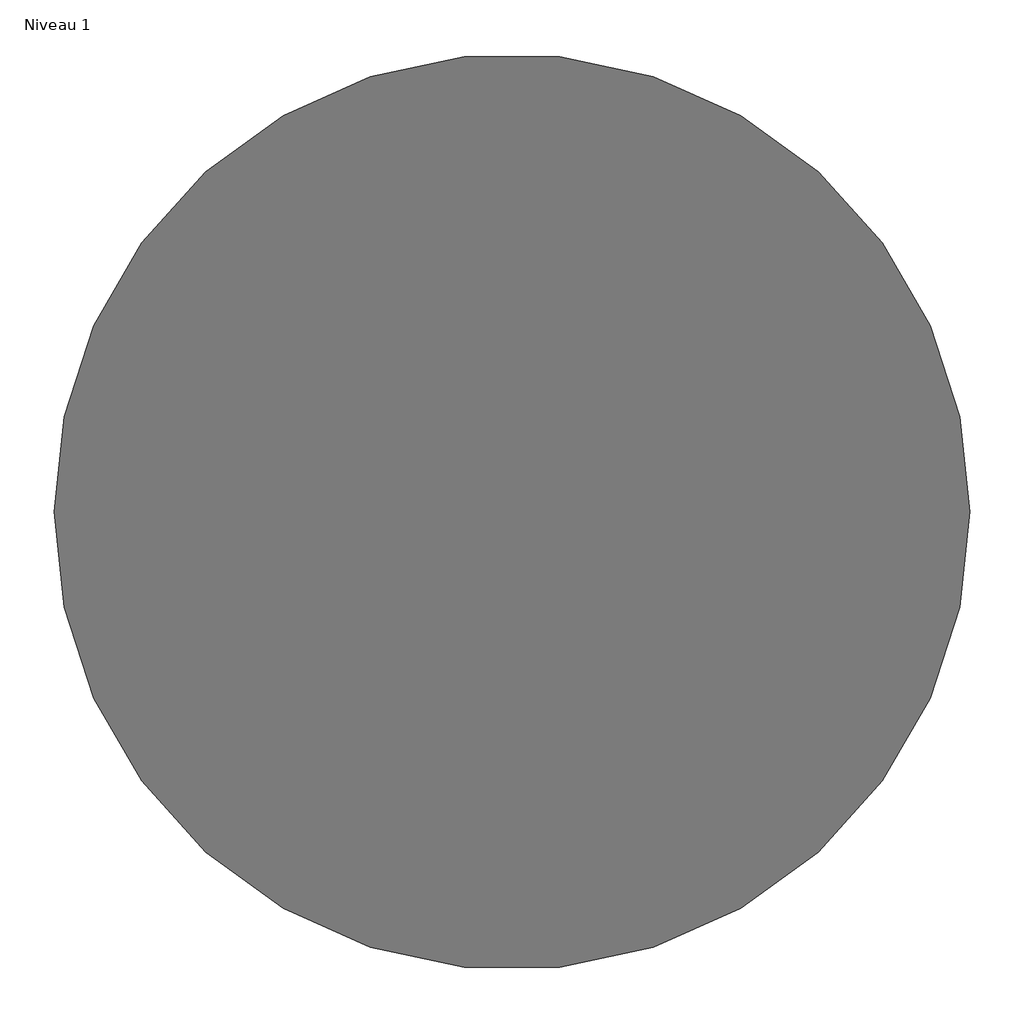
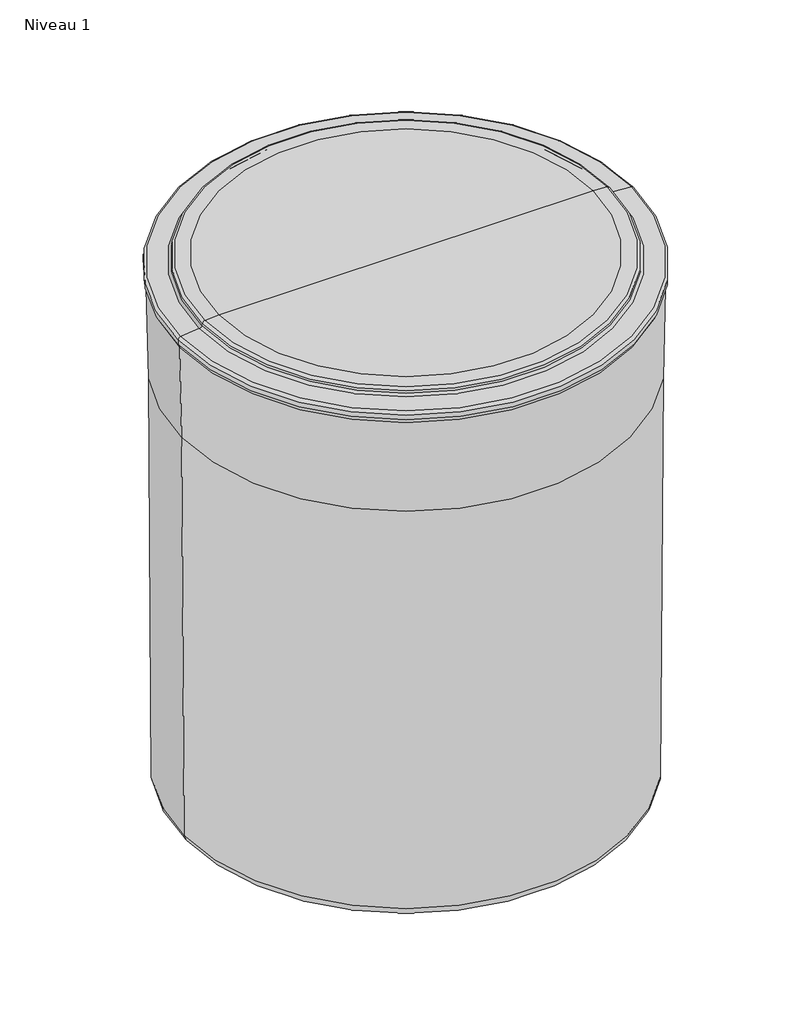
# One storey, incomplete: 1 proxy.
"""IFC4 building model written with IfcOpenShell, lengths in millimetres."""

from ifc_helpers import new_model, si_unit, origin, place, context, project, spatial, transform, mapped, element, save
from components import proxy_1560_x_1300_mm_c9167b54

model = new_model("IFC4")

# Units and contexts
model_context = context("Model", 3, world=origin())
ifc_project = project(units=[si_unit("LENGTHUNIT", "METRE", prefix="MILLI")], contexts=[model_context])

# Site, building, storey
site = spatial("IfcSite", under=ifc_project)
building = spatial("IfcBuilding", under=site)
storey = spatial("IfcBuildingStorey", under=building, Name="Niveau 1", Elevation=0.0)

# Proxy
placement = place(None, origin())
proxy_1560_x_1300_mm_shape = proxy_1560_x_1300_mm_c9167b54(model_context)
element("IfcBuildingElementProxy", 1, Name="BWT_Bac à sel type 1 : 1560 x 1300 mm", ObjectType="BWT_Bac à sel type 1 : 1560 x 1300 mm", at=placement, inside=storey, context=model_context, shape_type="MappedRepresentation", body=[
    mapped(proxy_1560_x_1300_mm_shape, transform((4642.4579715, -5013.1741202, 0.0), x_axis=(1.0, 0.0, 0.0), y_axis=(0.0, 1.0, 0.0), z_axis=(0.0, 0.0, 1.0))),
])

save(model, "model.ifc")
